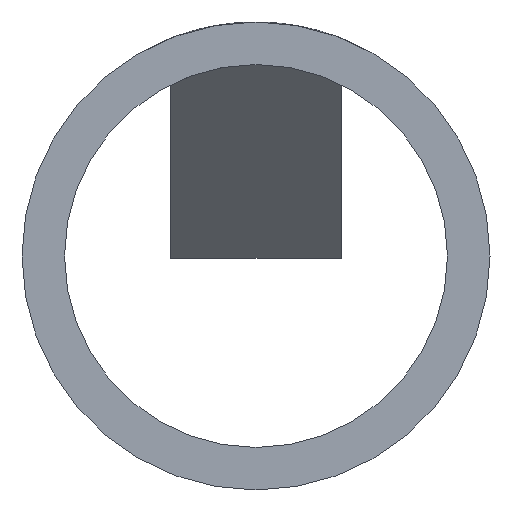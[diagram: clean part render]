
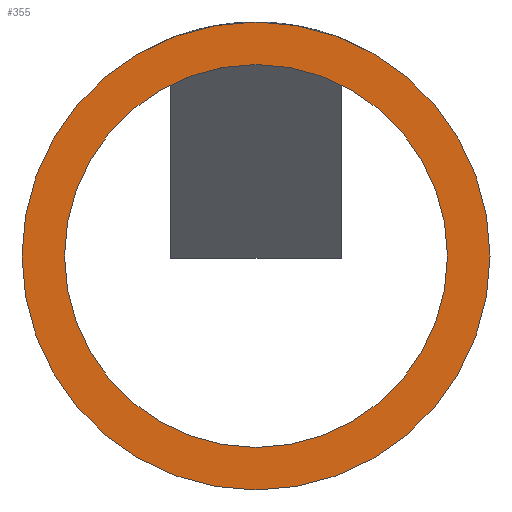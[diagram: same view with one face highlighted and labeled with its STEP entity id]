
A CAD part, front view. The second image highlights one B-rep face of the part: STEP entity #355.
In plain terms, the highlighted planar face has unit normal (0, -1, 0).
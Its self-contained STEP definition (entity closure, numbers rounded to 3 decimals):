
#14 = CIRCLE ( 'NONE', #122, 5.5 ) ;
#17 = FACE_BOUND ( 'NONE', #436, .T. ) ;
#31 = FACE_OUTER_BOUND ( 'NONE', #431, .T. ) ;
#67 = EDGE_CURVE ( 'NONE', #264, #265, #459, .T. ) ;
#79 = AXIS2_PLACEMENT_3D ( 'NONE', #304, #297, #296 ) ;
#80 = EDGE_CURVE ( 'NONE', #311, #319, #451, .T. ) ;
#81 = EDGE_CURVE ( 'NONE', #319, #311, #449, .T. ) ;
#90 = AXIS2_PLACEMENT_3D ( 'NONE', #295, #294, #293 ) ;
#96 = EDGE_CURVE ( 'NONE', #265, #264, #14, .T. ) ;
#99 = AXIS2_PLACEMENT_3D ( 'NONE', #323, #317, #316 ) ;
#108 = AXIS2_PLACEMENT_3D ( 'NONE', #154, #151, #149 ) ;
#122 = AXIS2_PLACEMENT_3D ( 'NONE', #288, #257, #256 ) ;
#149 = DIRECTION ( 'NONE',  ( -1., 0., 0. ) ) ;
#151 = DIRECTION ( 'NONE',  ( 0., -1., 0. ) ) ;
#153 = PLANE ( 'NONE',  #108 ) ;
#154 = CARTESIAN_POINT ( 'NONE',  ( 0., 0., 0. ) ) ;
#226 = CARTESIAN_POINT ( 'NONE',  ( 4.5, 0., 0. ) ) ;
#228 = CARTESIAN_POINT ( 'NONE',  ( -4.5, 0., 0. ) ) ;
#240 = CARTESIAN_POINT ( 'NONE',  ( -5.5, 0., 0. ) ) ;
#254 = CARTESIAN_POINT ( 'NONE',  ( 5.5, 0., 0. ) ) ;
#256 = DIRECTION ( 'NONE',  ( -1., 0., 0. ) ) ;
#257 = DIRECTION ( 'NONE',  ( 0., -1., 0. ) ) ;
#264 = VERTEX_POINT ( 'NONE', #254 ) ;
#265 = VERTEX_POINT ( 'NONE', #240 ) ;
#288 = CARTESIAN_POINT ( 'NONE',  ( 0., 0., 0. ) ) ;
#293 = DIRECTION ( 'NONE',  ( -1., 0., 0. ) ) ;
#294 = DIRECTION ( 'NONE',  ( 0., -1., 0. ) ) ;
#295 = CARTESIAN_POINT ( 'NONE',  ( 0., 0., 0. ) ) ;
#296 = DIRECTION ( 'NONE',  ( -1., 0., 0. ) ) ;
#297 = DIRECTION ( 'NONE',  ( 0., -1., 0. ) ) ;
#304 = CARTESIAN_POINT ( 'NONE',  ( 0., 0., 0. ) ) ;
#311 = VERTEX_POINT ( 'NONE', #228 ) ;
#316 = DIRECTION ( 'NONE',  ( -1., 0., 0. ) ) ;
#317 = DIRECTION ( 'NONE',  ( 0., -1., 0. ) ) ;
#319 = VERTEX_POINT ( 'NONE', #226 ) ;
#323 = CARTESIAN_POINT ( 'NONE',  ( 0., 0., 0. ) ) ;
#355 = ADVANCED_FACE ( 'NONE', ( #31, #17 ), #153, .T. ) ;
#393 = ORIENTED_EDGE ( 'NONE', *, *, #67, .T. ) ;
#394 = ORIENTED_EDGE ( 'NONE', *, *, #96, .T. ) ;
#395 = ORIENTED_EDGE ( 'NONE', *, *, #81, .F. ) ;
#397 = ORIENTED_EDGE ( 'NONE', *, *, #80, .F. ) ;
#431 = EDGE_LOOP ( 'NONE', ( #393, #394 ) ) ;
#436 = EDGE_LOOP ( 'NONE', ( #395, #397 ) ) ;
#449 = CIRCLE ( 'NONE', #90, 4.5 ) ;
#451 = CIRCLE ( 'NONE', #79, 4.5 ) ;
#459 = CIRCLE ( 'NONE', #99, 5.5 ) ;
